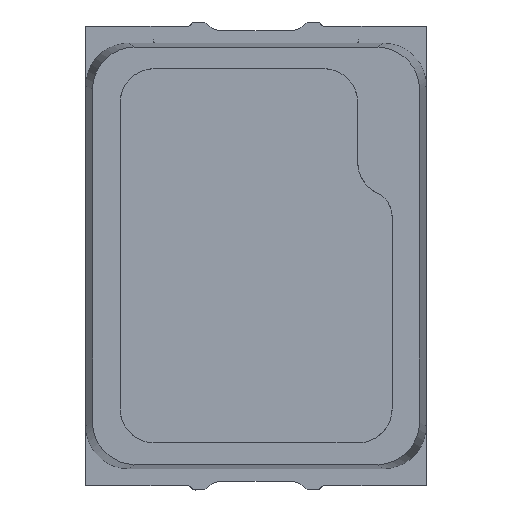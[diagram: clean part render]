
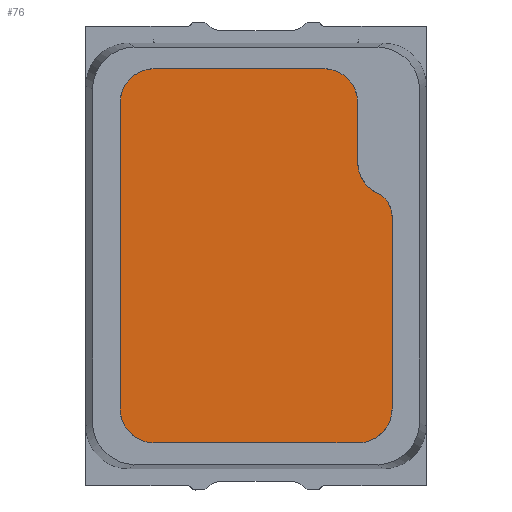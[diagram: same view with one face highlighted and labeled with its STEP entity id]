
A CAD part, top view. The second image highlights one B-rep face of the part: STEP entity #76.
In plain terms, the highlighted planar face has unit normal (0, 0, 1).
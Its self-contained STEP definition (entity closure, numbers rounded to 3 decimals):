
#76=ADVANCED_FACE('',(#160),#161,.T.);
#160=FACE_OUTER_BOUND('',#325,.T.);
#161=PLANE('',#326);
#325=EDGE_LOOP('',(#522,#523,#524,#525,#526,#527,#528,#529,#530,#531,#532,#533));
#326=AXIS2_PLACEMENT_3D('',#534,#535,#536);
#522=ORIENTED_EDGE('',*,*,#1242,.F.);
#523=ORIENTED_EDGE('',*,*,#1243,.F.);
#524=ORIENTED_EDGE('',*,*,#1244,.F.);
#525=ORIENTED_EDGE('',*,*,#1245,.F.);
#526=ORIENTED_EDGE('',*,*,#1246,.F.);
#527=ORIENTED_EDGE('',*,*,#1247,.F.);
#528=ORIENTED_EDGE('',*,*,#1248,.F.);
#529=ORIENTED_EDGE('',*,*,#1249,.F.);
#530=ORIENTED_EDGE('',*,*,#1250,.F.);
#531=ORIENTED_EDGE('',*,*,#1251,.F.);
#532=ORIENTED_EDGE('',*,*,#1252,.F.);
#533=ORIENTED_EDGE('',*,*,#1253,.F.);
#534=CARTESIAN_POINT('',(-0.029,-0.027,-0.005));
#535=DIRECTION('',(0.0,0.0,1.0));
#536=DIRECTION('',(0.,-1.0,0.0));
#1242=EDGE_CURVE('',#1486,#1487,#1488,.T.);
#1243=EDGE_CURVE('',#1489,#1486,#1490,.T.);
#1244=EDGE_CURVE('',#1491,#1489,#1492,.T.);
#1245=EDGE_CURVE('',#1493,#1491,#1494,.T.);
#1246=EDGE_CURVE('',#1495,#1493,#1496,.T.);
#1247=EDGE_CURVE('',#1497,#1495,#1498,.T.);
#1248=EDGE_CURVE('',#1499,#1497,#1500,.T.);
#1249=EDGE_CURVE('',#1501,#1499,#1502,.T.);
#1250=EDGE_CURVE('',#1503,#1501,#1504,.T.);
#1251=EDGE_CURVE('',#1505,#1503,#1506,.T.);
#1252=EDGE_CURVE('',#1507,#1505,#1508,.T.);
#1253=EDGE_CURVE('',#1487,#1507,#1509,.T.);
#1486=VERTEX_POINT('',#1885);
#1487=VERTEX_POINT('',#1886);
#1488=CIRCLE('',#1887,0.2);
#1489=VERTEX_POINT('',#1888);
#1490=LINE('',#1889,#1890);
#1491=VERTEX_POINT('',#1891);
#1492=CIRCLE('',#1892,0.2);
#1493=VERTEX_POINT('',#1893);
#1494=LINE('',#1894,#1895);
#1495=VERTEX_POINT('',#1896);
#1496=CIRCLE('',#1897,0.2);
#1497=VERTEX_POINT('',#1898);
#1498=LINE('',#1899,#1900);
#1499=VERTEX_POINT('',#1901);
#1500=CIRCLE('',#1902,0.2);
#1501=VERTEX_POINT('',#1903);
#1502=LINE('',#1904,#1905);
#1503=VERTEX_POINT('',#1906);
#1504=CIRCLE('',#1907,0.15);
#1505=VERTEX_POINT('',#1908);
#1506=LINE('',#1909,#1910);
#1507=VERTEX_POINT('',#1911);
#1508=CIRCLE('',#1912,0.2);
#1509=LINE('',#1913,#1914);
#1885=CARTESIAN_POINT('',(0.398,1.1,-0.005));
#1886=CARTESIAN_POINT('',(0.598,0.9,-0.005));
#1887=AXIS2_PLACEMENT_3D('',#2445,#2446,#2447);
#1888=CARTESIAN_POINT('',(-0.598,1.1,-0.005));
#1889=CARTESIAN_POINT('',(-0.598,1.1,-0.005));
#1890=VECTOR('',#2448,0.997);
#1891=CARTESIAN_POINT('',(-0.798,0.9,-0.005));
#1892=AXIS2_PLACEMENT_3D('',#2449,#2450,#2451);
#1893=CARTESIAN_POINT('',(-0.798,-0.9,-0.005));
#1894=CARTESIAN_POINT('',(-0.798,-0.9,-0.005));
#1895=VECTOR('',#2452,1.8);
#1896=CARTESIAN_POINT('',(-0.598,-1.1,-0.005));
#1897=AXIS2_PLACEMENT_3D('',#2453,#2454,#2455);
#1898=CARTESIAN_POINT('',(0.6,-1.1,-0.005));
#1899=CARTESIAN_POINT('',(0.6,-1.1,-0.005));
#1900=VECTOR('',#2456,1.198);
#1901=CARTESIAN_POINT('',(0.8,-0.9,-0.005));
#1902=AXIS2_PLACEMENT_3D('',#2457,#2458,#2459);
#1903=CARTESIAN_POINT('',(0.8,0.232,-0.005));
#1904=CARTESIAN_POINT('',(0.8,0.232,-0.005));
#1905=VECTOR('',#2460,1.132);
#1906=CARTESIAN_POINT('',(0.724,0.362,-0.005));
#1907=AXIS2_PLACEMENT_3D('',#2461,#2462,#2463);
#1908=CARTESIAN_POINT('',(0.699,0.376,-0.005));
#1909=CARTESIAN_POINT('',(0.699,0.376,-0.005));
#1910=VECTOR('',#2464,0.029);
#1911=CARTESIAN_POINT('',(0.598,0.55,-0.005));
#1912=AXIS2_PLACEMENT_3D('',#2465,#2466,#2467);
#1913=CARTESIAN_POINT('',(0.598,0.9,-0.005));
#1914=VECTOR('',#2468,0.35);
#2445=CARTESIAN_POINT('',(0.398,0.9,-0.005));
#2446=DIRECTION('',(0.0,0.0,-1.0));
#2447=DIRECTION('',(1.0,0.,0.0));
#2448=DIRECTION('',(1.0,0.,0.0));
#2449=CARTESIAN_POINT('',(-0.598,0.9,-0.005));
#2450=DIRECTION('',(0.0,0.0,-1.0));
#2451=DIRECTION('',(0.,1.0,0.0));
#2452=DIRECTION('',(0.,1.0,0.0));
#2453=CARTESIAN_POINT('',(-0.598,-0.9,-0.005));
#2454=DIRECTION('',(-0.0,0.0,-1.0));
#2455=DIRECTION('',(-1.0,0.,0.0));
#2456=DIRECTION('',(-1.0,0.,0.0));
#2457=CARTESIAN_POINT('',(0.6,-0.9,-0.005));
#2458=DIRECTION('',(0.0,0.0,-1.0));
#2459=DIRECTION('',(0.,-1.0,0.0));
#2460=DIRECTION('',(0.,-1.0,0.0));
#2461=CARTESIAN_POINT('',(0.65,0.232,-0.005));
#2462=DIRECTION('',(0.0,0.0,-1.0));
#2463=DIRECTION('',(1.0,0.,0.0));
#2464=DIRECTION('',(0.87,-0.494,0.0));
#2465=CARTESIAN_POINT('',(0.797,0.55,-0.005));
#2466=DIRECTION('',(0.0,0.0,1.0));
#2467=DIRECTION('',(-0.493,-0.87,0.0));
#2468=DIRECTION('',(0.,-1.0,0.0));
